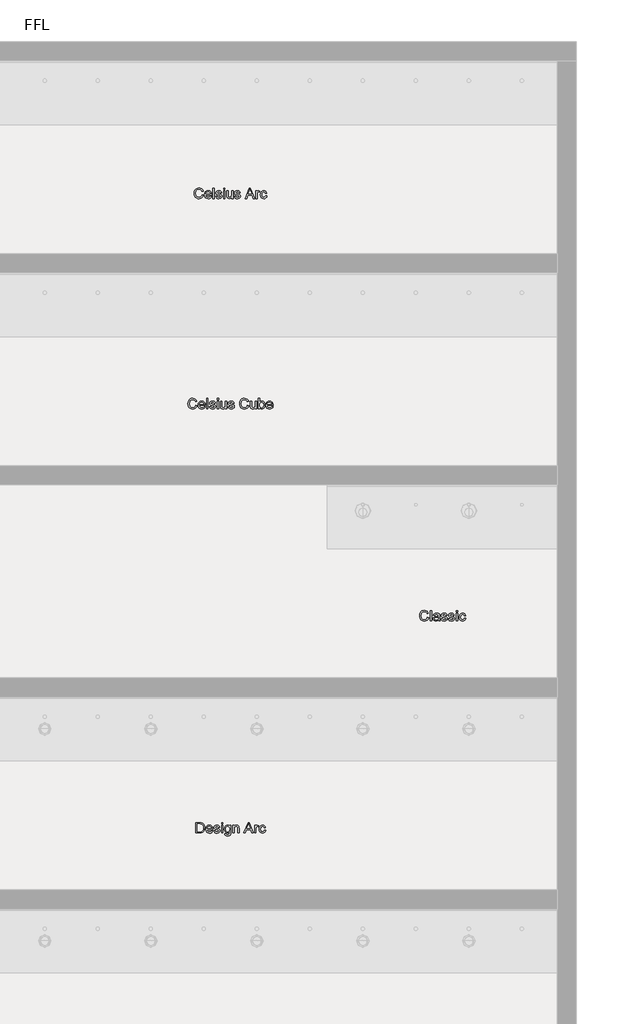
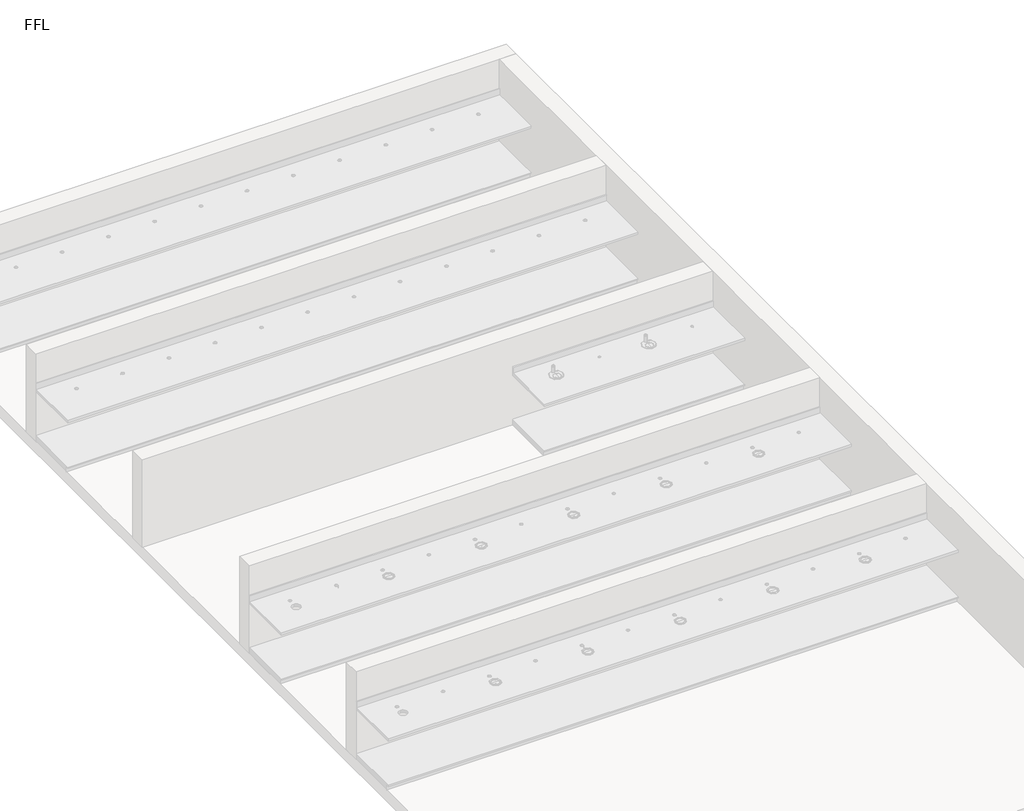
# One storey, part 5 of 5: 4 proxies.
"""IFC4 building model written with IfcOpenShell, lengths in millimetres."""

import ifcopenshell
import ifcopenshell.guid

model = None  # the IFC model being written
_history = None  # IfcOwnerHistory: only IFC2X3 demands one
_inside = {}  # id of a spatial element -> (the spatial element, [elements in it])
_under = {}  # id of a project, library or spatial element -> (it, [spatial elements below it])
_declared = {}  # id of a project -> (the project, [libraries it declares])
_typed = {}  # id of a type object -> (the type object, [elements of that type])
_made_of = {}  # id of a material, layer set ... -> (it, [elements and type objects made of it])


def new_model(schema):
    """Start an empty IFC model of exactly this schema.

    Asked for "IFC4X3", IfcOpenShell would pick the latest addendum, in which some entities
    have other attributes; the version numbers below select the first issue.
    IFC2X3 requires an IfcOwnerHistory on every rooted entity: one is made here for all.
    """
    global model, _history
    if schema == "IFC4X3":
        model = ifcopenshell.file(schema_version=(4, 3, 0, 0))
    else:
        model = ifcopenshell.file(schema=schema)
    _inside.clear()
    _under.clear()
    _declared.clear()
    _typed.clear()
    _made_of.clear()
    _history = None
    if model.schema == "IFC2X3":
        org = make("IfcOrganization", Name="unknown")
        user = make(
            "IfcPersonAndOrganization",
            ThePerson=make("IfcPerson", FamilyName="unknown"),
            TheOrganization=org,
        )
        app = make(
            "IfcApplication",
            ApplicationDeveloper=org,
            Version="unknown",
            ApplicationFullName="unknown",
            ApplicationIdentifier="unknown",
        )
        _history = make(
            "IfcOwnerHistory",
            OwningUser=user,
            OwningApplication=app,
            ChangeAction="ADDED",
            CreationDate=0,
        )
    return model


def make(cls, **values):
    """One entity of the class cls with the attributes given. An attribute that is None is left unset."""
    return model.create_entity(
        cls, **{name: value for name, value in values.items() if value is not None}
    )


def rooted(cls, **values):
    """An entity with a GlobalId (a new one), such as an element, a storey or a relation."""
    return make(cls, GlobalId=ifcopenshell.guid.new(), OwnerHistory=_history, **values)


def si_unit(unit_type, name, prefix=None):
    """IfcSIUnit, for example si_unit("LENGTHUNIT", "METRE", prefix="MILLI")."""
    return make("IfcSIUnit", UnitType=unit_type, Prefix=prefix, Name=name)


def assignment(units):
    """IfcUnitAssignment: the units of a project."""
    return None if units is None else make("IfcUnitAssignment", Units=units)


def point(xyz):
    """IfcCartesianPoint."""
    return None if xyz is None else make("IfcCartesianPoint", Coordinates=xyz)


def direction(xyz):
    """IfcDirection."""
    return None if xyz is None else make("IfcDirection", DirectionRatios=xyz)


def frame(location, z_axis=None, x_axis=None):
    """IfcAxis2Placement3D, a coordinate frame: its origin and axes. An axis left out is left unset."""
    return make(
        "IfcAxis2Placement3D",
        Location=point(location),
        Axis=direction(z_axis),
        RefDirection=direction(x_axis),
    )


def origin():
    """The frame at (0, 0, 0) with its axes left unset."""
    return frame((0.0, 0.0, 0.0))


def origin_with_axes():
    """The frame at (0, 0, 0) with the z axis (0, 0, 1) and the x axis (1, 0, 0) written out."""
    return frame((0.0, 0.0, 0.0), z_axis=(0.0, 0.0, 1.0), x_axis=(1.0, 0.0, 0.0))


def place(relative_to, where):
    """IfcLocalPlacement: puts the frame where relative to a parent placement (None: the world)."""
    return make(
        "IfcLocalPlacement", PlacementRelTo=relative_to, RelativePlacement=where
    )


def context(
    kind, dimensions, precision=None, world=None, true_north=None, identifier=None
):
    """IfcGeometricRepresentationContext, for example the 3D "Model" context."""
    return make(
        "IfcGeometricRepresentationContext",
        ContextIdentifier=identifier,
        ContextType=kind,
        CoordinateSpaceDimension=dimensions,
        Precision=precision,
        WorldCoordinateSystem=world,
        TrueNorth=true_north,
    )


def project(units=None, contexts=None):
    """IfcProject with its units and contexts."""
    return rooted(
        "IfcProject",
        Name="project",
        RepresentationContexts=contexts,
        UnitsInContext=assignment(units),
    )


def spatial(cls, under=None, at=None, **own):
    """A site, building, storey or space (cls), placed at a placement, below another one or the project."""
    s = rooted(cls, ObjectPlacement=at, **own)
    if under is not None:
        _under.setdefault(under.id(), (under, []))[1].append(s)
    return s


def polyline(points):
    """IfcPolyline through the points."""
    return make("IfcPolyline", Points=[point(p) for p in points])


def outline(outer, holes=None, kind="AREA"):
    """IfcArbitraryClosedProfileDef: a profile drawn as a closed curve; with holes, ...WithVoids."""
    if holes is None:
        return make("IfcArbitraryClosedProfileDef", ProfileType=kind, OuterCurve=outer)
    return make(
        "IfcArbitraryProfileDefWithVoids",
        ProfileType=kind,
        OuterCurve=outer,
        InnerCurves=holes,
    )


def extrude(swept, where, along, depth):
    """IfcExtrudedAreaSolid: the profile swept, set in the frame where, extruded along a direction by depth."""
    return make(
        "IfcExtrudedAreaSolid",
        SweptArea=swept,
        Position=where,
        ExtrudedDirection=direction(along),
        Depth=depth,
    )


def shape(context_of_items, identifier, shape_type, items):
    """IfcShapeRepresentation: the items that make up one representation, for example the "Body"."""
    return make(
        "IfcShapeRepresentation",
        ContextOfItems=context_of_items,
        RepresentationIdentifier=identifier,
        RepresentationType=shape_type,
        Items=items,
    )


def made_of(thing, what):
    """Note that an element or type object is made of a material, layer set ...; save() writes the relation."""
    if what is not None:
        _made_of.setdefault(what.id(), (what, []))[1].append(thing)
    return thing


def element(
    cls,
    number,
    at=None,
    inside=None,
    cuts=None,
    type_object=None,
    material=None,
    context=None,
    identifier="Body",
    shape_type=None,
    held_by="IfcProductDefinitionShape",
    body=None,
    shapes=None,
    **own,
):
    """One element of the class cls, such as IfcWall. Its Tag is "e" and its number.

    at: its placement. inside: the storey or other place that contains it. cuts: it is an
    opening in that element (IfcRelVoidsElement). A single representation is given by context,
    identifier, shape_type and body (its items); several are given by shapes. held_by: the class
    of the entity that holds the representations. save() writes the other relations.
    """
    e = rooted(cls, Tag="e%d" % number, ObjectPlacement=at, **own)
    if body is not None:
        shapes = [shape(context, identifier, shape_type, body)]
    if shapes is not None:
        e.Representation = make(held_by, Representations=shapes)
    if inside is not None:
        _inside.setdefault(inside.id(), (inside, []))[1].append(e)
    if cuts is not None:
        rooted(
            "IfcRelVoidsElement", RelatingBuildingElement=cuts, RelatedOpeningElement=e
        )
    if type_object is not None:
        _typed.setdefault(type_object.id(), (type_object, []))[1].append(e)
    return made_of(e, material)


def aggregate(whole, parts):
    """IfcRelAggregates: a whole, such as a stair, and the parts it consists of."""
    return rooted("IfcRelAggregates", RelatingObject=whole, RelatedObjects=parts)


def save(model, path):
    """Write the relations noted so far, then the file.

    IfcRelAggregates (storeys below a building ...), IfcRelContainedInSpatialStructure (elements
    in a storey), IfcRelDefinesByType, IfcRelAssociatesMaterial and IfcRelDeclares: one each for
    every whole, place, type object, material and project.
    """
    for whole, parts in _under.values():
        aggregate(whole, parts)
    for where, things in _inside.values():
        rooted(
            "IfcRelContainedInSpatialStructure",
            RelatedElements=things,
            RelatingStructure=where,
        )
    for kind, things in _typed.values():
        rooted("IfcRelDefinesByType", RelatedObjects=things, RelatingType=kind)
    for what, things in _made_of.values():
        rooted("IfcRelAssociatesMaterial", RelatedObjects=things, RelatingMaterial=what)
    for by, libraries in _declared.values():
        rooted("IfcRelDeclares", RelatingContext=by, RelatedDefinitions=libraries)
    model.write(path)


model = new_model("IFC4")

# Units and contexts
model_context = context("Model", 3, world=origin())
ifc_project = project(units=[si_unit("LENGTHUNIT", "METRE", prefix="MILLI")], contexts=[model_context])

# Site, building, storey
site = spatial("IfcSite", under=ifc_project)
building = spatial("IfcBuilding", under=site)
storey = spatial("IfcBuildingStorey", under=building, Name="FFL", Elevation=0.0)

# Proxies
placement = place(None, origin())
element("IfcBuildingElementProxy", 1, Name="150mm Arial", ObjectType="150mm Arial", at=placement, inside=storey, context=model_context, shape_type="SweptSolid", body=[
    extrude(outline(polyline([(-2745.1193659, 11953.6531174), (-2726.6578274, 11948.893502), (-2735.1764572, 11927.3805813), (-2748.5448467, 11911.6639347), (-2766.1049428, 11902.0500525), (-2787.1986928, 11898.845425), (-2808.6124548, 11901.2703049), (-2825.618164, 11908.5449443), (-2838.6530197, 11920.4169395), (-2848.1542217, 11936.6338866), (-2853.9550029, 11955.6993914), (-2855.8885967, 11976.1170597), (-2853.7025991, 11997.6525164), (-2847.1446063, 12016.2492712), (-2836.5571664, 12031.3168794), (-2822.2828274, 12042.2648962), (-2805.3537409, 12048.9310621), (-2786.8020582, 12051.1531174), (-2766.5601712, 12048.2775164), (-2749.8248947, 12039.6507135), (-2737.1190654, 12025.8045597), (-2728.9655197, 12007.2709058), (-2747.4270582, 12002.8718674), (-2753.8272986, 12016.3349082), (-2762.571289, 12025.5701847), (-2773.7672024, 12030.9112303), (-2787.523212, 12032.6915789), (-2803.3795822, 12030.7174202), (-2816.4054236, 12024.7949443), (-2826.2897385, 12015.5461462), (-2832.7215293, 12003.5930212), (-2837.4270582, 11976.1531174), (-2831.8561447, 11944.3502327), (-2824.7347505, 11932.4737303), (-2814.5123947, 11924.0317231), (-2802.2572866, 11918.9881534), (-2789.0376351, 11917.3069635), (-2773.6274789, 11919.596627), (-2760.7864332, 11926.4656174), (-2751.0914212, 11937.8418193), (-2745.1193659, 11953.6531174)])), origin_with_axes(), (0.0, 0.0, 1.0), 5.0),
    extrude(outline(polyline([(-2627.6434043, 11933.4608097), (-2609.5424428, 11931.1531174), (-2616.0643779, 11917.5142952), (-2626.4715293, 11907.3189827), (-2640.5295221, 11900.9638145), (-2658.0039813, 11898.845425), (-2679.6656399, 11902.5007736), (-2696.3333082, 11913.4668193), (-2706.961313, 11931.0314226), (-2710.5039813, 11954.4824443), (-2706.9252553, 11978.7222279), (-2696.1890774, 11996.8502327), (-2679.7467697, 12008.1543193), (-2659.0496543, 12011.9223481), (-2638.9970702, 12008.1633337), (-2622.9739332, 11996.8862904), (-2612.4676231, 11978.7943433), (-2608.9655197, 11954.5906174), (-2609.0736928, 11949.6146558), (-2692.0424428, 11949.6146558), (-2688.8468298, 11935.7955452), (-2681.4234524, 11925.6362904), (-2670.7098106, 11919.3892952), (-2657.6434043, 11917.3069635), (-2639.5424428, 11921.1651366), (-2627.6434043, 11933.4608097)]), holes=[polyline([(-2692.0424428, 11968.0761943), (-2627.4270582, 11968.0761943), (-2629.9240534, 11977.8298), (-2634.8188851, 11984.8069635), (-2645.5821063, 11991.2973481), (-2659.1217697, 11993.4608097), (-2671.5661808, 11991.7345476), (-2681.8561447, 11986.5557616), (-2689.0090894, 11978.4833457), (-2692.0424428, 11968.0761943)])]), origin_with_axes(), (0.0, 0.0, 1.0), 5.0),
    extrude(outline(polyline([(-2590.5039813, 11901.1531174), (-2590.5039813, 12048.845425), (-2572.0424428, 12048.845425), (-2572.0424428, 11901.1531174), (-2590.5039813, 11901.1531174)])), origin_with_axes(), (0.0, 0.0, 1.0), 5.0),
    extrude(outline(polyline([(-2551.273212, 11933.4608097), (-2532.8116736, 11935.768502), (-2529.9000149, 11927.8718674), (-2524.2660005, 11922.0665789), (-2504.6866736, 11917.3069635), (-2485.8645582, 11921.6699443), (-2479.7347505, 11931.9103289), (-2485.9006159, 11940.2035981), (-2504.9030197, 11945.4680212), (-2532.7035005, 11954.5004731), (-2544.836914, 11965.0473481), (-2548.9655197, 11979.939175), (-2545.648212, 11993.6951847), (-2536.5977313, 12004.206002), (-2524.8609524, 12009.6687424), (-2508.977539, 12011.9223481), (-2486.5135967, 12008.29855), (-2472.2347505, 11998.4908577), (-2465.8885967, 11981.9223481), (-2484.3501351, 11979.6146558), (-2491.2912409, 11989.8009539), (-2507.5352313, 11993.4608097), (-2525.2035005, 11989.9632135), (-2530.5039813, 11981.814175), (-2528.304462, 11976.4415789), (-2521.4174428, 11972.3670597), (-2505.5160005, 11968.4367712), (-2478.4186447, 11959.7468674), (-2465.8345101, 11949.9031174), (-2461.273212, 11933.8574443), (-2466.6277793, 11916.189175), (-2482.0785005, 11903.3706654), (-2504.9390774, 11898.845425), (-2523.5538611, 11901.0269154), (-2537.1385967, 11907.5713866), (-2546.2071063, 11918.4067231), (-2551.273212, 11933.4608097)])), origin_with_axes(), (0.0, 0.0, 1.0), 5.0),
    extrude(outline(polyline([(-2440.5039813, 11901.1531174), (-2440.5039813, 12009.6146558), (-2422.0424428, 12009.6146558), (-2422.0424428, 11901.1531174), (-2440.5039813, 11901.1531174)])), origin_with_axes(), (0.0, 0.0, 1.0), 5.0),
    extrude(outline(polyline([(-2440.5039813, 12030.3838866), (-2440.5039813, 12048.845425), (-2422.0424428, 12048.845425), (-2422.0424428, 12030.3838866), (-2440.5039813, 12030.3838866)])), origin_with_axes(), (0.0, 0.0, 1.0), 5.0),
    extrude(outline(polyline([(-2325.1193659, 11901.1531174), (-2325.1193659, 11919.7949443), (-2339.5785005, 11904.0828049), (-2358.4366736, 11898.845425), (-2375.7984524, 11902.5233097), (-2387.7696063, 11911.7540789), (-2393.2684043, 11925.3478289), (-2394.3501351, 11942.5112904), (-2394.3501351, 12009.6146558), (-2375.8885967, 12009.6146558), (-2375.8885967, 11951.2011943), (-2374.7708082, 11932.3790789), (-2367.4691255, 11921.3273962), (-2353.7131159, 11917.3069635), (-2338.2984524, 11921.4175404), (-2328.1121543, 11932.6134539), (-2325.1193659, 11953.1843674), (-2325.1193659, 12009.6146558), (-2306.6578274, 12009.6146558), (-2306.6578274, 11901.1531174), (-2325.1193659, 11901.1531174)])), origin_with_axes(), (0.0, 0.0, 1.0), 5.0),
    extrude(outline(polyline([(-2288.196289, 11933.4608097), (-2269.7347505, 11935.768502), (-2266.8230918, 11927.8718674), (-2261.1890774, 11922.0665789), (-2241.6097505, 11917.3069635), (-2222.7876351, 11921.6699443), (-2216.6578274, 11931.9103289), (-2222.8236928, 11940.2035981), (-2241.8260967, 11945.4680212), (-2269.6265774, 11954.5004731), (-2281.7599909, 11965.0473481), (-2285.8885967, 11979.939175), (-2282.571289, 11993.6951847), (-2273.5208082, 12004.206002), (-2261.7840293, 12009.6687424), (-2245.9006159, 12011.9223481), (-2223.4366736, 12008.29855), (-2209.1578274, 11998.4908577), (-2202.8116736, 11981.9223481), (-2221.273212, 11979.6146558), (-2228.2143178, 11989.8009539), (-2244.4583082, 11993.4608097), (-2262.1265774, 11989.9632135), (-2267.4270582, 11981.814175), (-2265.227539, 11976.4415789), (-2258.3405197, 11972.3670597), (-2242.4390774, 11968.4367712), (-2215.3417217, 11959.7468674), (-2202.757587, 11949.9031174), (-2198.196289, 11933.8574443), (-2203.5508563, 11916.189175), (-2219.0015774, 11903.3706654), (-2241.8621543, 11898.845425), (-2260.476938, 11901.0269154), (-2274.0616736, 11907.5713866), (-2283.1301832, 11918.4067231), (-2288.196289, 11933.4608097)])), origin_with_axes(), (0.0, 0.0, 1.0), 5.0),
    extrude(outline(polyline([(-2134.6265774, 11901.1531174), (-2075.6722505, 12048.845425), (-2059.9510967, 12048.845425), (-2000.9967697, 11901.1531174), (-2020.5039813, 11901.1531174), (-2037.415039, 11947.3069635), (-2098.2443659, 11947.3069635), (-2115.1193659, 11901.1531174), (-2134.6265774, 11901.1531174)]), holes=[polyline([(-2091.4655197, 11965.768502), (-2044.1578274, 11965.768502), (-2057.4631159, 12002.0785981), (-2067.8116736, 12030.3838866), (-2077.0063851, 12005.251675), (-2091.4655197, 11965.768502)])]), origin_with_axes(), (0.0, 0.0, 1.0), 5.0),
    extrude(outline(polyline([(-1983.5809043, 11901.1531174), (-1983.5809043, 12009.6146558), (-1967.4270582, 12009.6146558), (-1967.4270582, 11993.5689827), (-1955.960712, 12008.3526366), (-1944.4222505, 12011.9223481), (-1925.8885967, 12006.2252327), (-1932.054462, 11989.674752), (-1945.0352313, 11993.4608097), (-1955.4739332, 11989.8189827), (-1962.1265774, 11979.7228289), (-1965.1193659, 11958.1603289), (-1965.1193659, 11901.1531174), (-1983.5809043, 11901.1531174)])), origin_with_axes(), (0.0, 0.0, 1.0), 5.0),
    extrude(outline(polyline([(-1845.1193659, 11940.3838866), (-1826.6578274, 11938.0761943), (-1831.805063, 11921.6564226), (-1841.477539, 11909.2480693), (-1854.7647986, 11901.4460861), (-1870.7563851, 11898.845425), (-1890.3943058, 11902.4737303), (-1905.7503755, 11913.3586462), (-1915.6617337, 11931.0224082), (-1918.9655197, 11954.987252), (-1913.3224909, 11985.6543193), (-1906.2010967, 11997.1522159), (-1896.1229717, 12005.3598481), (-1884.0661808, 12010.2817231), (-1871.008789, 12011.9223481), (-1855.4093298, 12009.6687424), (-1842.9378755, 12002.907925), (-1833.9910606, 11992.0004731), (-1828.9655197, 11977.3069635), (-1847.4270582, 11974.9992712), (-1855.9907601, 11988.8273962), (-1870.8645582, 11993.4608097), (-1882.7951471, 11991.1801606), (-1892.2647986, 11984.3382135), (-1898.4441856, 11972.565377), (-1900.5039813, 11955.4920597), (-1898.4892577, 11938.1888746), (-1892.445087, 11926.3754731), (-1883.1467096, 11919.5740909), (-1871.3693659, 11917.3069635), (-1861.8095702, 11918.7222279), (-1853.9715293, 11922.9680212), (-1848.2699067, 11930.1525164), (-1845.1193659, 11940.3838866)])), origin_with_axes(), (0.0, 0.0, 1.0), 5.0),
])
element("IfcBuildingElementProxy", 2, Name="150mm Arial", ObjectType="150mm Arial", at=placement, inside=storey, context=model_context, shape_type="SweptSolid", body=[
    extrude(outline(polyline([(-2833.9655197, 8976.8685711), (-2815.5039813, 8972.1089557), (-2824.0226111, 8950.596035), (-2837.3910005, 8934.8793884), (-2854.9510967, 8925.2655062), (-2876.0448467, 8922.0608788), (-2897.4586087, 8924.4857586), (-2914.4643178, 8931.760398), (-2927.4991736, 8943.6323932), (-2937.0003755, 8959.8493403), (-2942.8011567, 8978.9148451), (-2944.7347505, 8999.3325134), (-2942.5487529, 9020.8679701), (-2935.9907601, 9039.4647249), (-2925.4033202, 9054.5323331), (-2911.1289813, 9065.4803499), (-2894.1998947, 9072.1465158), (-2875.648212, 9074.3685711), (-2855.406325, 9071.4929701), (-2838.6710486, 9062.8661672), (-2825.9652192, 9049.0200134), (-2817.8116736, 9030.4863595), (-2836.273212, 9026.0873211), (-2842.6734524, 9039.5503619), (-2851.4174428, 9048.7856384), (-2862.6133563, 9054.126684), (-2876.3693659, 9055.9070326), (-2892.2257361, 9053.932874), (-2905.2515774, 9048.010398), (-2915.1358923, 9038.7615999), (-2921.5676832, 9026.8084749), (-2926.273212, 8999.3685711), (-2920.7022986, 8967.5656865), (-2913.5809043, 8955.689184), (-2903.3585486, 8947.2471768), (-2891.1034404, 8942.2036071), (-2877.883789, 8940.5224172), (-2862.4736327, 8942.8120807), (-2849.632587, 8949.6810711), (-2839.937575, 8961.057273), (-2833.9655197, 8976.8685711)])), origin_with_axes(), (0.0, 0.0, 1.0), 5.0),
    extrude(outline(polyline([(-2716.4895582, 8956.6762634), (-2698.3885967, 8954.3685711), (-2704.9105317, 8940.729749), (-2715.3176832, 8930.5344365), (-2729.375676, 8924.1792682), (-2746.8501351, 8922.0608788), (-2768.5117938, 8925.7162273), (-2785.179462, 8936.682273), (-2795.8074668, 8954.2468764), (-2799.3501351, 8977.697898), (-2795.7714092, 9001.9376816), (-2785.0352313, 9020.0656865), (-2768.5929236, 9031.369773), (-2747.8958082, 9035.1378018), (-2727.8432241, 9031.3787874), (-2711.820087, 9020.1017441), (-2701.3137769, 9002.009797), (-2697.8116736, 8977.8060711), (-2697.9198467, 8972.8301095), (-2780.8885967, 8972.8301095), (-2777.6929837, 8959.010999), (-2770.2696063, 8948.8517441), (-2759.5559644, 8942.604749), (-2746.4895582, 8940.5224172), (-2728.3885967, 8944.3805903), (-2716.4895582, 8956.6762634)]), holes=[polyline([(-2780.8885967, 8991.291648), (-2716.273212, 8991.291648), (-2718.7702072, 9001.0452538), (-2723.665039, 9008.0224172), (-2734.4282601, 9014.5128018), (-2747.9679236, 9016.6762634), (-2760.4123346, 9014.9500014), (-2770.7022986, 9009.7712153), (-2777.8552433, 9001.6987994), (-2780.8885967, 8991.291648)])]), origin_with_axes(), (0.0, 0.0, 1.0), 5.0),
    extrude(outline(polyline([(-2679.3501351, 8924.3685711), (-2679.3501351, 9072.0608788), (-2660.8885967, 9072.0608788), (-2660.8885967, 8924.3685711), (-2679.3501351, 8924.3685711)])), origin_with_axes(), (0.0, 0.0, 1.0), 5.0),
    extrude(outline(polyline([(-2640.1193659, 8956.6762634), (-2621.6578274, 8958.9839557), (-2618.7461688, 8951.0873211), (-2613.1121543, 8945.2820326), (-2593.5328274, 8940.5224172), (-2574.710712, 8944.885398), (-2568.5809043, 8955.1257826), (-2574.7467697, 8963.4190518), (-2593.7491736, 8968.6834749), (-2621.5496543, 8977.7159268), (-2633.6830678, 8988.2628018), (-2637.8116736, 9003.1546288), (-2634.4943659, 9016.9106384), (-2625.4438851, 9027.4214557), (-2613.7071063, 9032.8841961), (-2597.8236928, 9035.1378018), (-2575.3597505, 9031.5140038), (-2561.0809043, 9021.7063115), (-2554.7347505, 9005.1378018), (-2573.196289, 9002.8301095), (-2580.1373947, 9013.0164076), (-2596.3813851, 9016.6762634), (-2614.0496543, 9013.1786672), (-2619.3501351, 9005.0296288), (-2617.1506159, 8999.6570326), (-2610.2635967, 8995.5825134), (-2594.3621543, 8991.6522249), (-2567.2647986, 8982.9623211), (-2554.680664, 8973.1185711), (-2550.1193659, 8957.072898), (-2555.4739332, 8939.4046288), (-2570.9246543, 8926.5861191), (-2593.7852313, 8922.0608788), (-2612.4000149, 8924.2423691), (-2625.9847505, 8930.7868403), (-2635.0532601, 8941.6221768), (-2640.1193659, 8956.6762634)])), origin_with_axes(), (0.0, 0.0, 1.0), 5.0),
    extrude(outline(polyline([(-2529.3501351, 8924.3685711), (-2529.3501351, 9032.8301095), (-2510.8885967, 9032.8301095), (-2510.8885967, 8924.3685711), (-2529.3501351, 8924.3685711)])), origin_with_axes(), (0.0, 0.0, 1.0), 5.0),
    extrude(outline(polyline([(-2529.3501351, 9053.5993403), (-2529.3501351, 9072.0608788), (-2510.8885967, 9072.0608788), (-2510.8885967, 9053.5993403), (-2529.3501351, 9053.5993403)])), origin_with_axes(), (0.0, 0.0, 1.0), 5.0),
    extrude(outline(polyline([(-2413.9655197, 8924.3685711), (-2413.9655197, 8943.010398), (-2428.4246543, 8927.2982586), (-2447.2828274, 8922.0608788), (-2464.6446063, 8925.7387634), (-2476.6157601, 8934.9695326), (-2482.1145582, 8948.5632826), (-2483.196289, 8965.7267441), (-2483.196289, 9032.8301095), (-2464.7347505, 9032.8301095), (-2464.7347505, 8974.416648), (-2463.616962, 8955.5945326), (-2456.3152793, 8944.5428499), (-2442.5592697, 8940.5224172), (-2427.1446063, 8944.6329941), (-2416.9583082, 8955.8289076), (-2413.9655197, 8976.3998211), (-2413.9655197, 9032.8301095), (-2395.5039813, 9032.8301095), (-2395.5039813, 8924.3685711), (-2413.9655197, 8924.3685711)])), origin_with_axes(), (0.0, 0.0, 1.0), 5.0),
    extrude(outline(polyline([(-2377.0424428, 8956.6762634), (-2358.5809043, 8958.9839557), (-2355.6692457, 8951.0873211), (-2350.0352313, 8945.2820326), (-2330.4559043, 8940.5224172), (-2311.633789, 8944.885398), (-2305.5039813, 8955.1257826), (-2311.6698467, 8963.4190518), (-2330.6722505, 8968.6834749), (-2358.4727313, 8977.7159268), (-2370.6061447, 8988.2628018), (-2374.7347505, 9003.1546288), (-2371.4174428, 9016.9106384), (-2362.366962, 9027.4214557), (-2350.6301832, 9032.8841961), (-2334.7467697, 9035.1378018), (-2312.2828274, 9031.5140038), (-2298.0039813, 9021.7063115), (-2291.6578274, 9005.1378018), (-2310.1193659, 9002.8301095), (-2317.0604717, 9013.0164076), (-2333.304462, 9016.6762634), (-2350.9727313, 9013.1786672), (-2356.273212, 9005.0296288), (-2354.0736928, 8999.6570326), (-2347.1866736, 8995.5825134), (-2331.2852313, 8991.6522249), (-2304.1878755, 8982.9623211), (-2291.6037409, 8973.1185711), (-2287.0424428, 8957.072898), (-2292.3970101, 8939.4046288), (-2307.8477313, 8926.5861191), (-2330.7083082, 8922.0608788), (-2349.3230918, 8924.2423691), (-2362.9078274, 8930.7868403), (-2371.976337, 8941.6221768), (-2377.0424428, 8956.6762634)])), origin_with_axes(), (0.0, 0.0, 1.0), 5.0),
    extrude(outline(polyline([(-2102.4270582, 8976.8685711), (-2083.9655197, 8972.1089557), (-2092.4841495, 8950.596035), (-2105.852539, 8934.8793884), (-2123.4126351, 8925.2655062), (-2144.5063851, 8922.0608788), (-2165.9201471, 8924.4857586), (-2182.9258563, 8931.760398), (-2195.960712, 8943.6323932), (-2205.461914, 8959.8493403), (-2211.2626952, 8978.9148451), (-2213.196289, 8999.3325134), (-2211.0102914, 9020.8679701), (-2204.4522986, 9039.4647249), (-2193.8648587, 9054.5323331), (-2179.5905197, 9065.4803499), (-2162.6614332, 9072.1465158), (-2144.1097505, 9074.3685711), (-2123.8678635, 9071.4929701), (-2107.132587, 9062.8661672), (-2094.4267577, 9049.0200134), (-2086.273212, 9030.4863595), (-2104.7347505, 9026.0873211), (-2111.1349909, 9039.5503619), (-2119.8789813, 9048.7856384), (-2131.0748947, 9054.126684), (-2144.8309043, 9055.9070326), (-2160.6872745, 9053.932874), (-2173.7131159, 9048.010398), (-2183.5974308, 9038.7615999), (-2190.0292217, 9026.8084749), (-2194.7347505, 8999.3685711), (-2189.163837, 8967.5656865), (-2182.0424428, 8955.689184), (-2171.820087, 8947.2471768), (-2159.5649789, 8942.2036071), (-2146.3453274, 8940.5224172), (-2130.9351712, 8942.8120807), (-2118.0941255, 8949.6810711), (-2108.3991135, 8961.057273), (-2102.4270582, 8976.8685711)])), origin_with_axes(), (0.0, 0.0, 1.0), 5.0),
    extrude(outline(polyline([(-1991.6578274, 8924.3685711), (-1991.6578274, 8943.010398), (-2006.116962, 8927.2982586), (-2024.9751351, 8922.0608788), (-2042.336914, 8925.7387634), (-2054.3080678, 8934.9695326), (-2059.8068659, 8948.5632826), (-2060.8885967, 8965.7267441), (-2060.8885967, 9032.8301095), (-2042.4270582, 9032.8301095), (-2042.4270582, 8974.416648), (-2041.3092697, 8955.5945326), (-2034.007587, 8944.5428499), (-2020.2515774, 8940.5224172), (-2004.836914, 8944.6329941), (-1994.6506159, 8955.8289076), (-1991.6578274, 8976.3998211), (-1991.6578274, 9032.8301095), (-1973.196289, 9032.8301095), (-1973.196289, 8924.3685711), (-1991.6578274, 8924.3685711)])), origin_with_axes(), (0.0, 0.0, 1.0), 5.0),
    extrude(outline(polyline([(-1929.3501351, 8924.3685711), (-1947.8116736, 8924.3685711), (-1947.8116736, 9072.0608788), (-1929.3501351, 9072.0608788), (-1929.3501351, 9017.2892441), (-1916.4234524, 9030.6756624), (-1900.3597505, 9035.1378018), (-1881.8621543, 9031.1173691), (-1867.5111928, 9019.8132826), (-1858.695087, 9002.2351576), (-1855.5039813, 8980.2219365), (-1858.8077673, 8955.5765038), (-1868.7191255, 8937.2411672), (-1883.2638971, 8925.8559509), (-1900.4679236, 8922.0608788), (-1916.883188, 8926.9557105), (-1929.3501351, 8941.6402057), (-1929.3501351, 8924.3685711)]), holes=[polyline([(-1929.3501351, 8979.3565518), (-1928.0881159, 8963.9599172), (-1924.3020582, 8953.5392441), (-1914.6295822, 8943.776624), (-1902.054462, 8940.5224172), (-1891.399414, 8942.9202538), (-1882.2948467, 8950.1137634), (-1876.0478515, 8962.057874), (-1873.9655197, 8978.7075134), (-1875.9622144, 8995.6005422), (-1881.9522986, 9007.4094365), (-1890.7729116, 9014.3595566), (-1901.2611928, 9016.6762634), (-1911.9162409, 9014.2784268), (-1921.0208082, 9007.0849172), (-1927.2678034, 8995.3571528), (-1929.3501351, 8979.3565518)])]), origin_with_axes(), (0.0, 0.0, 1.0), 5.0),
    extrude(outline(polyline([(-1758.7972505, 8956.6762634), (-1740.696289, 8954.3685711), (-1747.2182241, 8940.729749), (-1757.6253755, 8930.5344365), (-1771.6833683, 8924.1792682), (-1789.1578274, 8922.0608788), (-1810.8194861, 8925.7162273), (-1827.4871543, 8936.682273), (-1838.1151592, 8954.2468764), (-1841.6578274, 8977.697898), (-1838.0791015, 9001.9376816), (-1827.3429236, 9020.0656865), (-1810.9006159, 9031.369773), (-1790.2035005, 9035.1378018), (-1770.1509164, 9031.3787874), (-1754.1277793, 9020.1017441), (-1743.6214692, 9002.009797), (-1740.1193659, 8977.8060711), (-1740.227539, 8972.8301095), (-1823.196289, 8972.8301095), (-1820.000676, 8959.010999), (-1812.5772986, 8948.8517441), (-1801.8636567, 8942.604749), (-1788.7972505, 8940.5224172), (-1770.696289, 8944.3805903), (-1758.7972505, 8956.6762634)]), holes=[polyline([(-1823.196289, 8991.291648), (-1758.5809043, 8991.291648), (-1761.0778995, 9001.0452538), (-1765.9727313, 9008.0224172), (-1776.7359524, 9014.5128018), (-1790.2756159, 9016.6762634), (-1802.7200269, 9014.9500014), (-1813.0099909, 9009.7712153), (-1820.1629356, 9001.6987994), (-1823.196289, 8991.291648)])]), origin_with_axes(), (0.0, 0.0, 1.0), 5.0),
])
element("IfcBuildingElementProxy", 3, Name="150mm Arial", ObjectType="150mm Arial", at=placement, inside=storey, context=model_context, shape_type="SweptSolid", body=[
    extrude(outline(polyline([(442.9575572, 5976.8685711), (461.4190957, 5972.1089557), (452.9004658, 5950.596035), (439.5320764, 5934.8793884), (421.9719803, 5925.2655062), (400.8782303, 5922.0608788), (379.4644683, 5924.4857586), (362.4587591, 5931.760398), (349.4239033, 5943.6323932), (339.9227014, 5959.8493403), (334.1219202, 5978.9148451), (332.1883264, 5999.3325134), (334.374324, 6020.8679701), (340.9323168, 6039.4647249), (351.5197567, 6054.5323331), (365.7940957, 6065.4803499), (382.7231822, 6072.1465158), (401.2748649, 6074.3685711), (421.5167519, 6071.4929701), (438.2520283, 6062.8661672), (450.9578577, 6049.0200134), (459.1114033, 6030.4863595), (440.6498649, 6026.0873211), (434.2496245, 6039.5503619), (425.5056341, 6048.7856384), (414.3097207, 6054.126684), (400.553711, 6055.9070326), (384.6973408, 6053.932874), (371.6714995, 6048.010398), (361.7871846, 6038.7615999), (355.3553937, 6026.8084749), (350.6498649, 5999.3685711), (356.2207783, 5967.5656865), (363.3421726, 5955.689184), (373.5645283, 5947.2471768), (385.8196365, 5942.2036071), (399.039288, 5940.5224172), (414.4494442, 5942.8120807), (427.2904899, 5949.6810711), (436.9855019, 5961.057273), (442.9575572, 5976.8685711)])), origin_with_axes(), (0.0, 0.0, 1.0), 5.0),
    extrude(outline(polyline([(484.4960187, 5924.3685711), (484.4960187, 6072.0608788), (502.9575572, 6072.0608788), (502.9575572, 5924.3685711), (484.4960187, 5924.3685711)])), origin_with_axes(), (0.0, 0.0, 1.0), 5.0),
    extrude(outline(polyline([(599.8806341, 5938.2147249), (581.9779899, 5925.7027057), (562.2003457, 5922.0608788), (546.7721606, 5924.2513836), (535.3914514, 5930.822898), (528.3737231, 5940.8018643), (526.0344803, 5953.2147249), (529.5681341, 5967.8180903), (538.8529899, 5978.4190518), (551.7796726, 5984.4767441), (567.7532303, 5987.2531865), (599.772461, 5993.5993403), (599.8806341, 5997.7099172), (598.6096005, 6005.9490999), (594.7964995, 6011.3397249), (586.2688553, 6015.3421288), (574.3878457, 6016.6762634), (555.709961, 6013.1245807), (546.803711, 6000.5224172), (528.3421726, 6002.8301095), (536.3289514, 6020.8589557), (552.4106822, 6031.4238595), (576.7676533, 6035.1378018), (599.1414514, 6031.8565518), (611.7796726, 6023.6173691), (617.4407303, 6011.0873211), (618.3421726, 5994.9334749), (618.3421726, 5971.9647249), (619.2796726, 5939.8914076), (622.9575572, 5924.3685711), (604.4960187, 5924.3685711), (599.8806341, 5938.2147249)]), holes=[polyline([(599.8806341, 5975.1378018), (570.0969803, 5969.4767441), (554.2135668, 5966.4839557), (547.0200572, 5961.6161672), (544.4960187, 5954.5128018), (549.9948168, 5944.5248211), (566.1306341, 5940.5224172), (584.8085187, 5944.9394845), (596.851788, 5955.6305903), (599.772461, 5969.9094365), (599.8806341, 5975.1378018)])]), origin_with_axes(), (0.0, 0.0, 1.0), 5.0),
    extrude(outline(polyline([(636.803711, 5956.6762634), (655.2652495, 5958.9839557), (658.1769082, 5951.0873211), (663.8109226, 5945.2820326), (683.3902495, 5940.5224172), (702.2123649, 5944.885398), (708.3421726, 5955.1257826), (702.1763072, 5963.4190518), (683.1739033, 5968.6834749), (655.3734226, 5977.7159268), (643.2400091, 5988.2628018), (639.1114033, 6003.1546288), (642.428711, 6016.9106384), (651.4791918, 6027.4214557), (663.2159707, 6032.8841961), (679.0993841, 6035.1378018), (701.5633264, 6031.5140038), (715.8421726, 6021.7063115), (722.1883264, 6005.1378018), (703.726788, 6002.8301095), (696.7856822, 6013.0164076), (680.5416918, 6016.6762634), (662.8734226, 6013.1786672), (657.5729418, 6005.0296288), (659.772461, 5999.6570326), (666.6594803, 5995.5825134), (682.5609226, 5991.6522249), (709.6582783, 5982.9623211), (722.242413, 5973.1185711), (726.803711, 5957.072898), (721.4491437, 5939.4046288), (705.9984226, 5926.5861191), (683.1378457, 5922.0608788), (664.523062, 5924.2423691), (650.9383264, 5930.7868403), (641.8698168, 5941.6221768), (636.803711, 5956.6762634)])), origin_with_axes(), (0.0, 0.0, 1.0), 5.0),
    extrude(outline(polyline([(740.6498649, 5956.6762634), (759.1114033, 5958.9839557), (762.023062, 5951.0873211), (767.6570764, 5945.2820326), (787.2364033, 5940.5224172), (806.0585187, 5944.885398), (812.1883264, 5955.1257826), (806.022461, 5963.4190518), (787.0200572, 5968.6834749), (759.2195764, 5977.7159268), (747.086163, 5988.2628018), (742.9575572, 6003.1546288), (746.2748649, 6016.9106384), (755.3253457, 6027.4214557), (767.0621245, 6032.8841961), (782.945538, 6035.1378018), (805.4094803, 6031.5140038), (819.6883264, 6021.7063115), (826.0344803, 6005.1378018), (807.5729418, 6002.8301095), (800.631836, 6013.0164076), (784.3878457, 6016.6762634), (766.7195764, 6013.1786672), (761.4190957, 6005.0296288), (763.6186149, 5999.6570326), (770.5056341, 5995.5825134), (786.4070764, 5991.6522249), (813.5044322, 5982.9623211), (826.0885668, 5973.1185711), (830.6498649, 5957.072898), (825.2952976, 5939.4046288), (809.8445764, 5926.5861191), (786.9839995, 5922.0608788), (768.3692158, 5924.2423691), (754.7844803, 5930.7868403), (745.7159707, 5941.6221768), (740.6498649, 5956.6762634)])), origin_with_axes(), (0.0, 0.0, 1.0), 5.0),
    extrude(outline(polyline([(851.4190957, 5924.3685711), (851.4190957, 6032.8301095), (869.8806341, 6032.8301095), (869.8806341, 5924.3685711), (851.4190957, 5924.3685711)])), origin_with_axes(), (0.0, 0.0, 1.0), 5.0),
    extrude(outline(polyline([(851.4190957, 6053.5993403), (851.4190957, 6072.0608788), (869.8806341, 6072.0608788), (869.8806341, 6053.5993403), (851.4190957, 6053.5993403)])), origin_with_axes(), (0.0, 0.0, 1.0), 5.0),
    extrude(outline(polyline([(966.803711, 5963.5993403), (985.2652495, 5961.291648), (980.1180139, 5944.8718764), (970.445538, 5932.463523), (957.1582783, 5924.6615398), (941.1666918, 5922.0608788), (921.5287711, 5925.689184), (906.1727014, 5936.5740999), (896.2613433, 5954.2378619), (892.9575572, 5978.2027057), (898.600586, 6008.869773), (905.7219803, 6020.3676696), (915.8001053, 6028.5753018), (927.8568961, 6033.4971768), (940.914288, 6035.1378018), (956.5137471, 6032.8841961), (968.9852014, 6026.1233788), (977.9320163, 6015.2159268), (982.9575572, 6000.5224172), (964.4960187, 5998.2147249), (955.9323168, 6012.0428499), (941.0585187, 6016.6762634), (929.1279298, 6014.3956143), (919.6582783, 6007.5536672), (913.4788913, 5995.7808307), (911.4190957, 5978.7075134), (913.4338192, 5961.4043283), (919.4779899, 5949.5909268), (928.7763673, 5942.7895446), (940.553711, 5940.5224172), (950.1135067, 5941.9376816), (957.9515476, 5946.1834749), (963.6531702, 5953.3679701), (966.803711, 5963.5993403)])), origin_with_axes(), (0.0, 0.0, 1.0), 5.0),
])
element("IfcBuildingElementProxy", 4, Name="150mm Arial", ObjectType="150mm Arial", at=placement, inside=storey, context=model_context, shape_type="SweptSolid", body=[
    extrude(outline(polyline([(-2830.5039813, 2924.3685711), (-2830.5039813, 3072.0608788), (-2779.554462, 3072.0608788), (-2753.196289, 3069.9334749), (-2731.4895582, 3059.3685711), (-2721.2762168, 3048.1185711), (-2714.0015774, 3034.1281865), (-2709.6476111, 3017.6678499), (-2708.196289, 2999.0079941), (-2712.1265774, 2969.2063115), (-2722.2227313, 2947.697898), (-2735.7083082, 2934.3024653), (-2753.3585486, 2926.8926095), (-2777.102539, 2924.3685711), (-2830.5039813, 2924.3685711)]), holes=[polyline([(-2812.0424428, 2942.8301095), (-2779.3741736, 2942.8301095), (-2755.6121543, 2945.4983788), (-2741.9102313, 2953.0344365), (-2730.6782601, 2971.369773), (-2726.6578274, 2999.2964557), (-2728.6274789, 3019.416648), (-2734.5364332, 3034.2724172), (-2743.2669019, 3044.4767441), (-2753.7010967, 3050.6426095), (-2779.8789813, 3053.5993403), (-2812.0424428, 3053.5993403), (-2812.0424428, 2942.8301095)])]), origin_with_axes(), (0.0, 0.0, 1.0), 5.0),
    extrude(outline(polyline([(-2609.1818659, 2956.6762634), (-2591.0809043, 2954.3685711), (-2597.6028394, 2940.729749), (-2608.0099909, 2930.5344365), (-2622.0679837, 2924.1792682), (-2639.5424428, 2922.0608788), (-2661.2041015, 2925.7162273), (-2677.8717697, 2936.682273), (-2688.4997745, 2954.2468764), (-2692.0424428, 2977.697898), (-2688.4637168, 3001.9376816), (-2677.727539, 3020.0656865), (-2661.2852313, 3031.369773), (-2640.5881159, 3035.1378018), (-2620.5355317, 3031.3787874), (-2604.5123947, 3020.1017441), (-2594.0060846, 3002.009797), (-2590.5039813, 2977.8060711), (-2590.6121543, 2972.8301095), (-2673.5809043, 2972.8301095), (-2670.3852914, 2959.010999), (-2662.961914, 2948.8517441), (-2652.2482721, 2942.604749), (-2639.1818659, 2940.5224172), (-2621.0809043, 2944.3805903), (-2609.1818659, 2956.6762634)]), holes=[polyline([(-2673.5809043, 2991.291648), (-2608.9655197, 2991.291648), (-2611.4625149, 3001.0452538), (-2616.3573467, 3008.0224172), (-2627.1205678, 3014.5128018), (-2640.6602313, 3016.6762634), (-2653.1046423, 3014.9500014), (-2663.3946063, 3009.7712153), (-2670.547551, 3001.6987994), (-2673.5809043, 2991.291648)])]), origin_with_axes(), (0.0, 0.0, 1.0), 5.0),
    extrude(outline(polyline([(-2578.9655197, 2956.6762634), (-2560.5039813, 2958.9839557), (-2557.5923226, 2951.0873211), (-2551.9583082, 2945.2820326), (-2532.3789813, 2940.5224172), (-2513.5568659, 2944.885398), (-2507.4270582, 2955.1257826), (-2513.5929236, 2963.4190518), (-2532.5953274, 2968.6834749), (-2560.3958082, 2977.7159268), (-2572.5292217, 2988.2628018), (-2576.6578274, 3003.1546288), (-2573.3405197, 3016.9106384), (-2564.290039, 3027.4214557), (-2552.5532601, 3032.8841961), (-2536.6698467, 3035.1378018), (-2514.2059043, 3031.5140038), (-2499.9270582, 3021.7063115), (-2493.5809043, 3005.1378018), (-2512.0424428, 3002.8301095), (-2518.9835486, 3013.0164076), (-2535.227539, 3016.6762634), (-2552.8958082, 3013.1786672), (-2558.196289, 3005.0296288), (-2555.9967697, 2999.6570326), (-2549.1097505, 2995.5825134), (-2533.2083082, 2991.6522249), (-2506.1109524, 2982.9623211), (-2493.5268178, 2973.1185711), (-2488.9655197, 2957.072898), (-2494.320087, 2939.4046288), (-2509.7708082, 2926.5861191), (-2532.6313851, 2922.0608788), (-2551.2461688, 2924.2423691), (-2564.8309043, 2930.7868403), (-2573.899414, 2941.6221768), (-2578.9655197, 2956.6762634)])), origin_with_axes(), (0.0, 0.0, 1.0), 5.0),
    extrude(outline(polyline([(-2468.196289, 3053.5993403), (-2468.196289, 3072.0608788), (-2449.7347505, 3072.0608788), (-2449.7347505, 3053.5993403), (-2468.196289, 3053.5993403)])), origin_with_axes(), (0.0, 0.0, 1.0), 5.0),
    extrude(outline(polyline([(-2468.196289, 2924.3685711), (-2468.196289, 3032.8301095), (-2449.7347505, 3032.8301095), (-2449.7347505, 2924.3685711), (-2468.196289, 2924.3685711)])), origin_with_axes(), (0.0, 0.0, 1.0), 5.0),
    extrude(outline(polyline([(-2426.6578274, 2915.1378018), (-2408.196289, 2912.8301095), (-2402.210712, 2903.0945326), (-2384.290039, 2898.9839557), (-2365.3958082, 2903.635398), (-2356.3813851, 2916.6882826), (-2355.1193659, 2938.2147249), (-2368.118164, 2927.8301095), (-2383.9655197, 2924.3685711), (-2402.9994741, 2928.3980182), (-2417.1926832, 2940.4863595), (-2426.0223106, 2958.2087153), (-2428.9655197, 2979.1402057), (-2423.6830678, 3007.7519845), (-2417.2197265, 3019.3670687), (-2408.3946063, 3027.9983788), (-2397.5096904, 3033.3529461), (-2384.866962, 3035.1378018), (-2368.3976111, 3031.0993403), (-2355.1193659, 3018.9839557), (-2355.1193659, 3032.8301095), (-2336.6578274, 3032.8301095), (-2336.6578274, 2939.1882826), (-2337.9198467, 2917.5671889), (-2341.7059043, 2903.3289076), (-2348.2278394, 2893.8862994), (-2357.6974909, 2886.6522249), (-2369.9075269, 2882.0548691), (-2384.6506159, 2880.5224172), (-2401.8275991, 2882.6813715), (-2415.3537409, 2889.1582345), (-2424.0301231, 2899.971035), (-2426.6578274, 2915.1378018)]), holes=[polyline([(-2410.5039813, 2980.4022249), (-2408.5343298, 2963.4686312), (-2402.6253755, 2951.8265038), (-2393.7416616, 2945.0792081), (-2382.8477313, 2942.8301095), (-2372.0349308, 2945.0656865), (-2363.1061447, 2951.7724172), (-2357.1160606, 2963.2658066), (-2355.1193659, 2979.8613595), (-2357.1746543, 2995.8664677), (-2363.3405197, 3007.3914076), (-2372.4000149, 3014.3550494), (-2383.1361928, 3016.6762634), (-2393.6785606, 3014.3911071), (-2402.5172024, 3007.5356384), (-2408.5072866, 2996.1819725), (-2410.5039813, 2980.4022249)])]), origin_with_axes(), (0.0, 0.0, 1.0), 5.0),
    extrude(outline(polyline([(-2308.9655197, 2924.3685711), (-2308.9655197, 3032.8301095), (-2290.5039813, 3032.8301095), (-2290.5039813, 3017.6858788), (-2276.3873947, 3030.7748211), (-2257.1145582, 3035.1378018), (-2239.680664, 3031.6221768), (-2227.7816255, 3022.3914076), (-2222.2467697, 3008.8156865), (-2221.273212, 2990.9671288), (-2221.273212, 2924.3685711), (-2239.7347505, 2924.3685711), (-2239.7347505, 2988.479148), (-2241.8621543, 3004.8132826), (-2249.3801832, 3013.4490999), (-2262.054462, 3016.6762634), (-2272.8672625, 3014.8643643), (-2282.0845101, 3009.4286672), (-2288.3991135, 2998.9268643), (-2290.5039813, 2981.916648), (-2290.5039813, 2924.3685711), (-2308.9655197, 2924.3685711)])), origin_with_axes(), (0.0, 0.0, 1.0), 5.0),
    extrude(outline(polyline([(-2153.0881159, 2924.3685711), (-2094.133789, 3072.0608788), (-2078.4126351, 3072.0608788), (-2019.4583082, 2924.3685711), (-2038.9655197, 2924.3685711), (-2055.8765774, 2970.5224172), (-2116.7059043, 2970.5224172), (-2133.5809043, 2924.3685711), (-2153.0881159, 2924.3685711)]), holes=[polyline([(-2109.9270582, 2988.9839557), (-2062.6193659, 2988.9839557), (-2075.9246543, 3025.2940518), (-2086.273212, 3053.5993403), (-2095.4679236, 3028.4671288), (-2109.9270582, 2988.9839557)])]), origin_with_axes(), (0.0, 0.0, 1.0), 5.0),
    extrude(outline(polyline([(-2002.0424428, 2924.3685711), (-2002.0424428, 3032.8301095), (-1985.8885967, 3032.8301095), (-1985.8885967, 3016.7844365), (-1974.4222505, 3031.5680903), (-1962.883789, 3035.1378018), (-1944.3501351, 3029.4406865), (-1950.5160005, 3012.8902057), (-1963.4967697, 3016.6762634), (-1973.9354717, 3013.0344365), (-1980.5881159, 3002.9382826), (-1983.5809043, 2981.3757826), (-1983.5809043, 2924.3685711), (-2002.0424428, 2924.3685711)])), origin_with_axes(), (0.0, 0.0, 1.0), 5.0),
    extrude(outline(polyline([(-1863.5809043, 2963.5993403), (-1845.1193659, 2961.291648), (-1850.2666015, 2944.8718764), (-1859.9390774, 2932.463523), (-1873.226337, 2924.6615398), (-1889.2179236, 2922.0608788), (-1908.8558442, 2925.689184), (-1924.211914, 2936.5740999), (-1934.1232721, 2954.2378619), (-1937.4270582, 2978.2027057), (-1931.7840293, 3008.869773), (-1924.6626351, 3020.3676696), (-1914.5845101, 3028.5753018), (-1902.5277192, 3033.4971768), (-1889.4703274, 3035.1378018), (-1873.8708683, 3032.8841961), (-1861.399414, 3026.1233788), (-1852.4525991, 3015.2159268), (-1847.4270582, 3000.5224172), (-1865.8885967, 2998.2147249), (-1874.4522986, 3012.0428499), (-1889.3260967, 3016.6762634), (-1901.2566856, 3014.3956143), (-1910.726337, 3007.5536672), (-1916.9057241, 2995.7808307), (-1918.9655197, 2978.7075134), (-1916.9507962, 2961.4043283), (-1910.9066255, 2949.5909268), (-1901.6082481, 2942.7895446), (-1889.8309043, 2940.5224172), (-1880.2711087, 2941.9376816), (-1872.4330678, 2946.1834749), (-1866.7314452, 2953.3679701), (-1863.5809043, 2963.5993403)])), origin_with_axes(), (0.0, 0.0, 1.0), 5.0),
])

save(model, "model.ifc")
